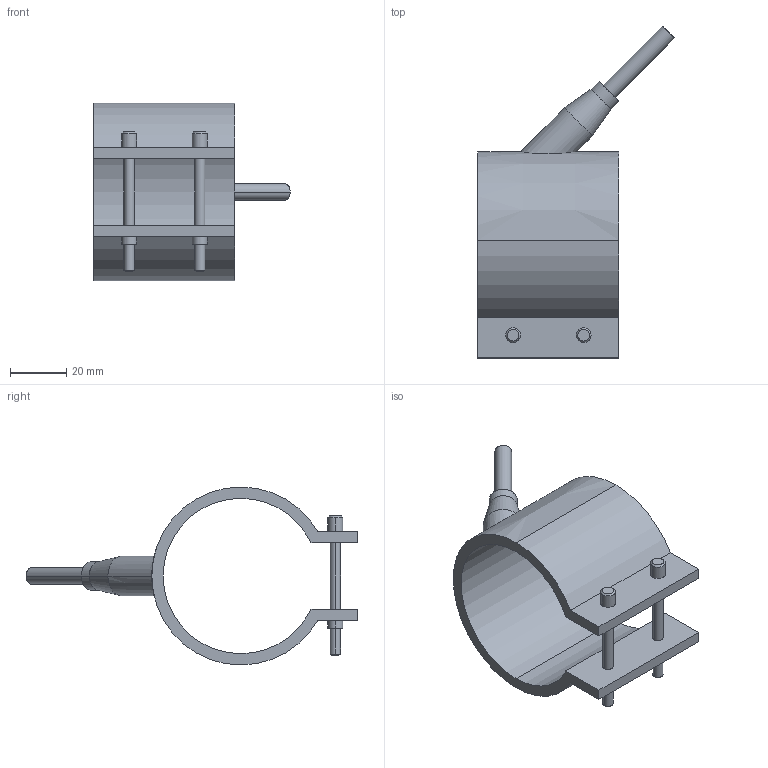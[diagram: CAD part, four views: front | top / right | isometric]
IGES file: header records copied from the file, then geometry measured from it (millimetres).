
Start section: START RECORD GO HERE.
Global section: file name: 29055050.igs; native system: DASSAULT SYSTEMES CATIA V5 R20 - www.3ds.com; preprocessor: CATIA Version 5 Release 20 ; author: Utente; organization: NB04-ASUS; date: 20210329.151444; units: millimetre
Bounding box: 69.55 x 117.55 x 63 mm (x, y, z)
Surface area: 23296.5 mm2 (no closed solid volume)
Topology: 0 solids, 0 shells, 54 faces, 248 edges, 248 vertices
Faces by surface type: revolution 38, plane 16
